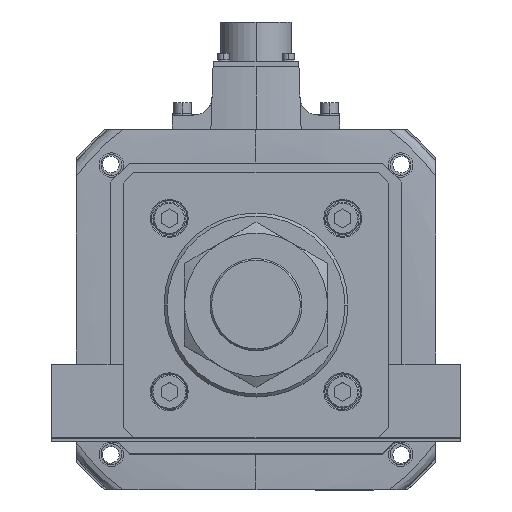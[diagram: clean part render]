
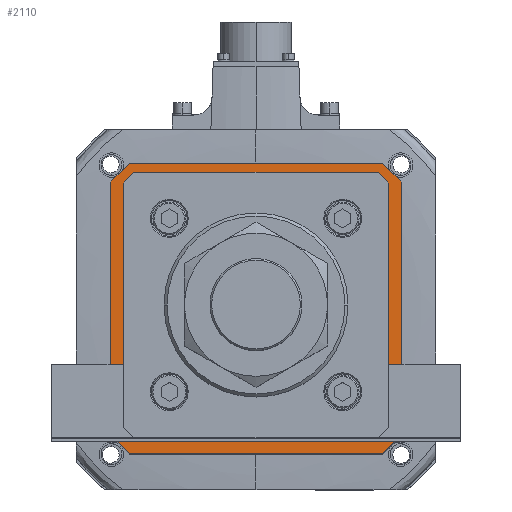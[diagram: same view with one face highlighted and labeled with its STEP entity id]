
A CAD part, top view. The second image highlights one B-rep face of the part: STEP entity #2110.
In plain terms, the highlighted planar face has unit normal (0, 0, 1).
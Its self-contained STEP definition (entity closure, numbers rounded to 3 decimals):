
#499 = VERTEX_POINT ( 'NONE', #33974 ) ;
#505 = VERTEX_POINT ( 'NONE', #4497 ) ;
#973 = EDGE_CURVE ( 'NONE', #36743, #505, #8049, .T. ) ;
#2030 = LINE ( 'NONE', #54676, #42674 ) ;
#2041 = VECTOR ( 'NONE', #36999, 1000. ) ;
#2110 = ADVANCED_FACE ( 'NONE', ( #28913, #18268 ), #2738, .T. ) ;
#2738 = PLANE ( 'NONE',  #3568 ) ;
#3186 = VERTEX_POINT ( 'NONE', #32260 ) ;
#3420 = CARTESIAN_POINT ( 'NONE',  ( 60.896, -60.896, -142. ) ) ;
#3568 = AXIS2_PLACEMENT_3D ( 'NONE', #18983, #48804, #23238 ) ;
#3724 = ORIENTED_EDGE ( 'NONE', *, *, #21281, .T. ) ;
#4497 = CARTESIAN_POINT ( 'NONE',  ( 62., -71., -142. ) ) ;
#4537 = CARTESIAN_POINT ( 'NONE',  ( 71., 62., -142. ) ) ;
#5755 = EDGE_CURVE ( 'NONE', #39238, #47409, #39974, .T. ) ;
#5889 = VECTOR ( 'NONE', #52373, 1000. ) ;
#6179 = LINE ( 'NONE', #54055, #41547 ) ;
#6540 = DIRECTION ( 'NONE',  ( -0.707, 0.707, 0. ) ) ;
#6831 = CARTESIAN_POINT ( 'NONE',  ( 63., 0., -142. ) ) ;
#7425 = DIRECTION ( 'NONE',  ( -1., 0., 0. ) ) ;
#8033 = EDGE_CURVE ( 'NONE', #12102, #41537, #25756, .T. ) ;
#8049 = LINE ( 'NONE', #54874, #52150 ) ;
#8656 = VECTOR ( 'NONE', #53583, 1000. ) ;
#10363 = CARTESIAN_POINT ( 'NONE',  ( 71., 62., -142. ) ) ;
#10391 = VECTOR ( 'NONE', #42698, 1000. ) ;
#11269 = LINE ( 'NONE', #32706, #11845 ) ;
#11644 = DIRECTION ( 'NONE',  ( 0.707, 0.707, 0. ) ) ;
#11845 = VECTOR ( 'NONE', #45941, 1000. ) ;
#12102 = VERTEX_POINT ( 'NONE', #25324 ) ;
#13444 = CARTESIAN_POINT ( 'NONE',  ( -60.896, -60.896, -142. ) ) ;
#13834 = ORIENTED_EDGE ( 'NONE', *, *, #17157, .T. ) ;
#13893 = CARTESIAN_POINT ( 'NONE',  ( -71., -62., -142. ) ) ;
#14728 = ORIENTED_EDGE ( 'NONE', *, *, #8033, .F. ) ;
#14936 = EDGE_CURVE ( 'NONE', #47409, #49411, #42826, .T. ) ;
#16057 = EDGE_CURVE ( 'NONE', #20228, #55051, #2030, .T. ) ;
#16317 = CARTESIAN_POINT ( 'NONE',  ( -62., 71., -142. ) ) ;
#16672 = ORIENTED_EDGE ( 'NONE', *, *, #24576, .F. ) ;
#17157 = EDGE_CURVE ( 'NONE', #499, #21443, #47296, .T. ) ;
#17314 = VERTEX_POINT ( 'NONE', #51840 ) ;
#18268 = FACE_OUTER_BOUND ( 'NONE', #52412, .T. ) ;
#18755 = LINE ( 'NONE', #16317, #39366 ) ;
#18983 = CARTESIAN_POINT ( 'NONE',  ( 0., 0., -142. ) ) ;
#19340 = LINE ( 'NONE', #36355, #8656 ) ;
#19452 = ORIENTED_EDGE ( 'NONE', *, *, #27663, .T. ) ;
#20228 = VERTEX_POINT ( 'NONE', #52234 ) ;
#20978 = ORIENTED_EDGE ( 'NONE', *, *, #34293, .T. ) ;
#21075 = EDGE_LOOP ( 'NONE', ( #3724, #19452, #47650, #35657, #48047, #40004, #20978, #13834 ) ) ;
#21281 = EDGE_CURVE ( 'NONE', #21443, #17314, #43800, .T. ) ;
#21443 = VERTEX_POINT ( 'NONE', #47829 ) ;
#21665 = VECTOR ( 'NONE', #29145, 1000. ) ;
#22012 = EDGE_CURVE ( 'NONE', #55051, #39868, #51144, .T. ) ;
#23238 = DIRECTION ( 'NONE',  ( 1., 0., 0. ) ) ;
#23976 = CARTESIAN_POINT ( 'NONE',  ( -62., 71., -142. ) ) ;
#24113 = CARTESIAN_POINT ( 'NONE',  ( -60.896, 60.896, -142. ) ) ;
#24414 = DIRECTION ( 'NONE',  ( -0.707, -0.707, 0. ) ) ;
#24576 = EDGE_CURVE ( 'NONE', #505, #39238, #27506, .T. ) ;
#25135 = VERTEX_POINT ( 'NONE', #39595 ) ;
#25324 = CARTESIAN_POINT ( 'NONE',  ( 62., 71., -142. ) ) ;
#25666 = LINE ( 'NONE', #3420, #21665 ) ;
#25756 = LINE ( 'NONE', #47161, #45117 ) ;
#27506 = LINE ( 'NONE', #50153, #43491 ) ;
#27663 = EDGE_CURVE ( 'NONE', #17314, #20228, #25666, .T. ) ;
#28913 = FACE_BOUND ( 'NONE', #21075, .T. ) ;
#29145 = DIRECTION ( 'NONE',  ( -0.707, -0.707, 0. ) ) ;
#29260 = CARTESIAN_POINT ( 'NONE',  ( -71., 62., -142. ) ) ;
#29472 = VECTOR ( 'NONE', #54881, 1000. ) ;
#30458 = VERTEX_POINT ( 'NONE', #23976 ) ;
#31272 = LINE ( 'NONE', #10363, #5889 ) ;
#32260 = CARTESIAN_POINT ( 'NONE',  ( -58.793, 63., -142. ) ) ;
#32263 = CARTESIAN_POINT ( 'NONE',  ( -62., -71., -142. ) ) ;
#32606 = DIRECTION ( 'NONE',  ( -1., 0., 0. ) ) ;
#32706 = CARTESIAN_POINT ( 'NONE',  ( 0., 63., -142. ) ) ;
#33013 = ORIENTED_EDGE ( 'NONE', *, *, #14936, .F. ) ;
#33494 = CARTESIAN_POINT ( 'NONE',  ( -62., -71., -142. ) ) ;
#33974 = CARTESIAN_POINT ( 'NONE',  ( 58.793, 63., -142. ) ) ;
#34293 = EDGE_CURVE ( 'NONE', #3186, #499, #11269, .T. ) ;
#34483 = DIRECTION ( 'NONE',  ( 0.707, -0.707, 0. ) ) ;
#34708 = CARTESIAN_POINT ( 'NONE',  ( -63., -58.793, -142. ) ) ;
#35657 = ORIENTED_EDGE ( 'NONE', *, *, #22012, .T. ) ;
#35948 = VECTOR ( 'NONE', #40600, 1000. ) ;
#36355 = CARTESIAN_POINT ( 'NONE',  ( -63., 0., -142. ) ) ;
#36743 = VERTEX_POINT ( 'NONE', #51166 ) ;
#36999 = DIRECTION ( 'NONE',  ( 0.707, 0.707, 0. ) ) ;
#38694 = ORIENTED_EDGE ( 'NONE', *, *, #5755, .F. ) ;
#39238 = VERTEX_POINT ( 'NONE', #33494 ) ;
#39366 = VECTOR ( 'NONE', #11644, 1000. ) ;
#39595 = CARTESIAN_POINT ( 'NONE',  ( -63., 58.793, -142. ) ) ;
#39868 = VERTEX_POINT ( 'NONE', #34708 ) ;
#39974 = LINE ( 'NONE', #32263, #50027 ) ;
#40004 = ORIENTED_EDGE ( 'NONE', *, *, #40981, .T. ) ;
#40600 = DIRECTION ( 'NONE',  ( 0.707, -0.707, 0. ) ) ;
#40918 = ORIENTED_EDGE ( 'NONE', *, *, #46000, .F. ) ;
#40981 = EDGE_CURVE ( 'NONE', #25135, #3186, #52113, .T. ) ;
#41025 = EDGE_CURVE ( 'NONE', #49411, #30458, #18755, .T. ) ;
#41537 = VERTEX_POINT ( 'NONE', #4537 ) ;
#41547 = VECTOR ( 'NONE', #50075, 1000. ) ;
#42416 = CARTESIAN_POINT ( 'NONE',  ( -58.793, -63., -142. ) ) ;
#42674 = VECTOR ( 'NONE', #7425, 1000. ) ;
#42698 = DIRECTION ( 'NONE',  ( -0.707, 0.707, 0. ) ) ;
#42826 = LINE ( 'NONE', #29260, #29472 ) ;
#43491 = VECTOR ( 'NONE', #32606, 1000. ) ;
#43800 = LINE ( 'NONE', #6831, #49196 ) ;
#45117 = VECTOR ( 'NONE', #34483, 1000. ) ;
#45725 = CARTESIAN_POINT ( 'NONE',  ( -71., 62., -142. ) ) ;
#45941 = DIRECTION ( 'NONE',  ( 1., 0., 0. ) ) ;
#46000 = EDGE_CURVE ( 'NONE', #30458, #12102, #6179, .T. ) ;
#47112 = ORIENTED_EDGE ( 'NONE', *, *, #973, .F. ) ;
#47161 = CARTESIAN_POINT ( 'NONE',  ( 71., 62., -142. ) ) ;
#47296 = LINE ( 'NONE', #53547, #35948 ) ;
#47409 = VERTEX_POINT ( 'NONE', #13893 ) ;
#47650 = ORIENTED_EDGE ( 'NONE', *, *, #16057, .T. ) ;
#47829 = CARTESIAN_POINT ( 'NONE',  ( 63., 58.793, -142. ) ) ;
#47947 = EDGE_CURVE ( 'NONE', #39868, #25135, #19340, .T. ) ;
#48047 = ORIENTED_EDGE ( 'NONE', *, *, #47947, .T. ) ;
#48804 = DIRECTION ( 'NONE',  ( 0., 0., 1. ) ) ;
#49196 = VECTOR ( 'NONE', #49551, 1000. ) ;
#49411 = VERTEX_POINT ( 'NONE', #45725 ) ;
#49551 = DIRECTION ( 'NONE',  ( 0., -1., 0. ) ) ;
#50027 = VECTOR ( 'NONE', #6540, 1000. ) ;
#50075 = DIRECTION ( 'NONE',  ( 1., 0., 0. ) ) ;
#50153 = CARTESIAN_POINT ( 'NONE',  ( 62., -71., -142. ) ) ;
#50707 = ORIENTED_EDGE ( 'NONE', *, *, #53772, .F. ) ;
#51144 = LINE ( 'NONE', #13444, #10391 ) ;
#51166 = CARTESIAN_POINT ( 'NONE',  ( 71., -62., -142. ) ) ;
#51840 = CARTESIAN_POINT ( 'NONE',  ( 63., -58.793, -142. ) ) ;
#52113 = LINE ( 'NONE', #24113, #2041 ) ;
#52150 = VECTOR ( 'NONE', #24414, 1000. ) ;
#52234 = CARTESIAN_POINT ( 'NONE',  ( 58.793, -63., -142. ) ) ;
#52373 = DIRECTION ( 'NONE',  ( 0., -1., 0. ) ) ;
#52412 = EDGE_LOOP ( 'NONE', ( #40918, #54336, #33013, #38694, #16672, #47112, #50707, #14728 ) ) ;
#53547 = CARTESIAN_POINT ( 'NONE',  ( 60.896, 60.896, -142. ) ) ;
#53583 = DIRECTION ( 'NONE',  ( 0., 1., 0. ) ) ;
#53772 = EDGE_CURVE ( 'NONE', #41537, #36743, #31272, .T. ) ;
#54055 = CARTESIAN_POINT ( 'NONE',  ( 62., 71., -142. ) ) ;
#54336 = ORIENTED_EDGE ( 'NONE', *, *, #41025, .F. ) ;
#54676 = CARTESIAN_POINT ( 'NONE',  ( 0., -63., -142. ) ) ;
#54874 = CARTESIAN_POINT ( 'NONE',  ( 71., -62., -142. ) ) ;
#54881 = DIRECTION ( 'NONE',  ( 0., 1., 0. ) ) ;
#55051 = VERTEX_POINT ( 'NONE', #42416 ) ;
